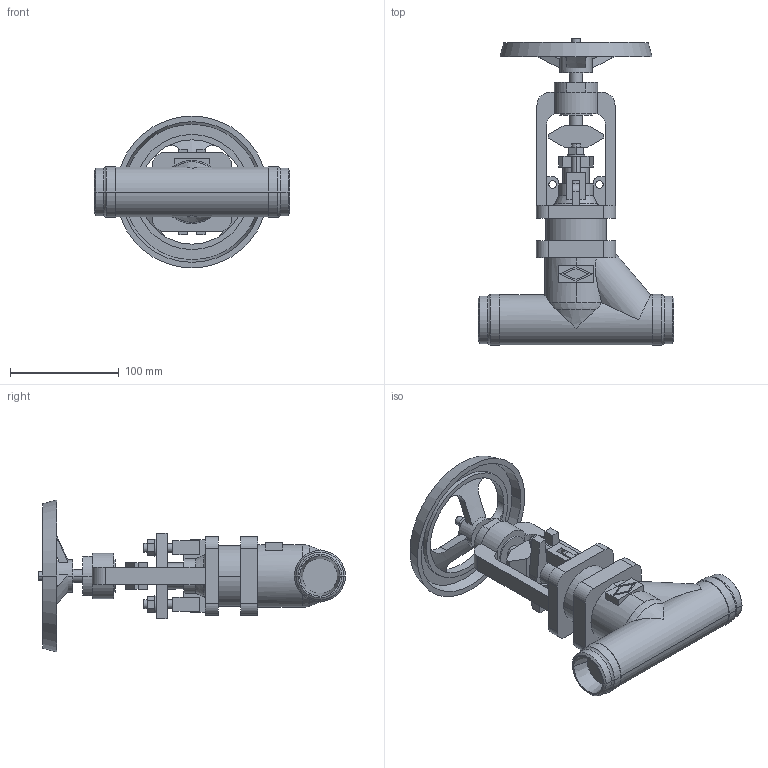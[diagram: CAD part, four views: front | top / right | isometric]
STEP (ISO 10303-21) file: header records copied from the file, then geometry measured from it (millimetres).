
FILE_DESCRIPTION(('OneSpaceDesigner STEP Export'),'2;1');
FILE_NAME('c000004311.stp','2010-05-06T 9:26:47',(''),(''),'OneSpace Designer STEP processor for AP214 (Solid Model)','OneSpace Modeling 15.50B 03-Nov-2007 (C) CoCreate Software GmbH','');
FILE_SCHEMA(('AUTOMOTIVE_DESIGN { 1 0 10303 214 1 1 1 1 }'));
Length unit declared in the file: millimetre
Products named in the file (1): 1
Bounding box: 180 x 282.8 x 140 mm (x, y, z)
Volume: 852969.4 mm3; surface area: 136022.6 mm2
Topology: 1 solids, 1 shells, 275 faces, 721 edges, 473 vertices
Faces by surface type: plane 147, cylinder 90, cone 28, torus 10
Entity records: 10542 total; most frequent: CARTESIAN_POINT 1834, ORIENTED_EDGE 1442, DIRECTION 1232, EDGE_CURVE 721, VERTEX_POINT 473, VECTOR 422, LINE 422, AXIS2_PLACEMENT_3D 405
